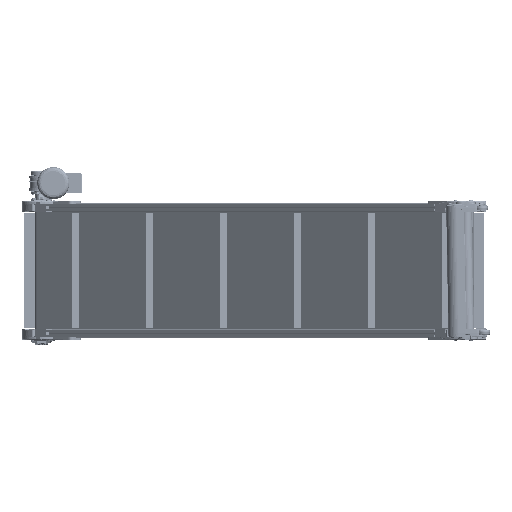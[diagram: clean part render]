
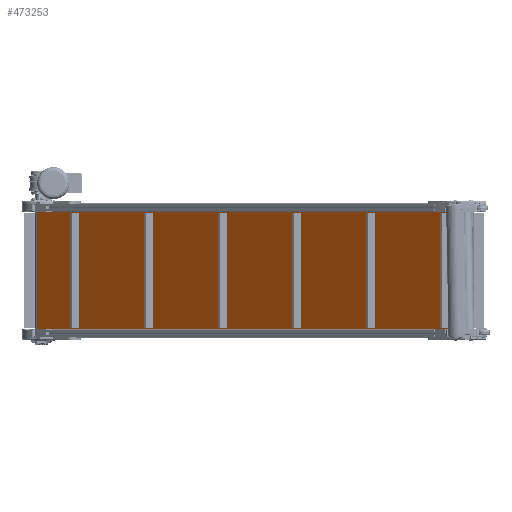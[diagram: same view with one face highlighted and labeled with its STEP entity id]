
A CAD part, left-side view. The second image highlights one B-rep face of the part: STEP entity #473253.
In plain terms, the highlighted planar face has unit normal (-0.707, 0.707, 0).
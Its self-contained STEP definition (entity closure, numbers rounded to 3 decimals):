
#8882 = DIRECTION ( 'NONE',  ( 0.707, 0.707, 0. ) ) ;
#31340 = DIRECTION ( 'NONE',  ( 0., 0., -1. ) ) ;
#31390 = EDGE_CURVE ( 'NONE', #98490, #453713, #185246, .T. ) ;
#58197 = ORIENTED_EDGE ( 'NONE', *, *, #441524, .T. ) ;
#86498 = LINE ( 'NONE', #205075, #491378 ) ;
#89408 = VECTOR ( 'NONE', #270373, 1000. ) ;
#98490 = VERTEX_POINT ( 'NONE', #140577 ) ;
#118914 = CARTESIAN_POINT ( 'NONE',  ( 344.139, 33.151, -246.5 ) ) ;
#131064 = ORIENTED_EDGE ( 'NONE', *, *, #235143, .F. ) ;
#131877 = DIRECTION ( 'NONE',  ( -0.707, -0.707, 0. ) ) ;
#140577 = CARTESIAN_POINT ( 'NONE',  ( 344.139, 33.151, 246.5 ) ) ;
#163929 = EDGE_LOOP ( 'NONE', ( #58197, #240280, #131064, #376237 ) ) ;
#185246 = LINE ( 'NONE', #377158, #316613 ) ;
#196582 = CARTESIAN_POINT ( 'NONE',  ( 1955.84, 1644.852, 246.5 ) ) ;
#205075 = CARTESIAN_POINT ( 'NONE',  ( 1906.342, 1595.354, 246.5 ) ) ;
#235143 = EDGE_CURVE ( 'NONE', #270860, #98490, #86498, .T. ) ;
#236901 = LINE ( 'NONE', #196582, #244319 ) ;
#240280 = ORIENTED_EDGE ( 'NONE', *, *, #31390, .F. ) ;
#241309 = EDGE_CURVE ( 'NONE', #270860, #378613, #236901, .T. ) ;
#244319 = VECTOR ( 'NONE', #350564, 1000. ) ;
#259229 = CARTESIAN_POINT ( 'NONE',  ( 1955.84, 1644.852, 246.5 ) ) ;
#270373 = DIRECTION ( 'NONE',  ( -0.707, -0.707, 0. ) ) ;
#270860 = VERTEX_POINT ( 'NONE', #259229 ) ;
#271379 = CARTESIAN_POINT ( 'NONE',  ( 344.139, 33.151, 246.5 ) ) ;
#276384 = PLANE ( 'NONE',  #477158 ) ;
#311821 = FACE_OUTER_BOUND ( 'NONE', #163929, .T. ) ;
#316613 = VECTOR ( 'NONE', #31340, 1000. ) ;
#350564 = DIRECTION ( 'NONE',  ( 0., 0., -1. ) ) ;
#376237 = ORIENTED_EDGE ( 'NONE', *, *, #241309, .T. ) ;
#377158 = CARTESIAN_POINT ( 'NONE',  ( 344.139, 33.151, 246.5 ) ) ;
#378613 = VERTEX_POINT ( 'NONE', #420637 ) ;
#386652 = CARTESIAN_POINT ( 'NONE',  ( 344.139, 33.151, -246.5 ) ) ;
#420637 = CARTESIAN_POINT ( 'NONE',  ( 1955.84, 1644.852, -246.5 ) ) ;
#425528 = DIRECTION ( 'NONE',  ( 0.707, -0.707, 0. ) ) ;
#441524 = EDGE_CURVE ( 'NONE', #378613, #453713, #462353, .T. ) ;
#453713 = VERTEX_POINT ( 'NONE', #118914 ) ;
#462353 = LINE ( 'NONE', #386652, #89408 ) ;
#473253 = ADVANCED_FACE ( 'NONE', ( #311821 ), #276384, .F. ) ;
#477158 = AXIS2_PLACEMENT_3D ( 'NONE', #271379, #425528, #8882 ) ;
#491378 = VECTOR ( 'NONE', #131877, 1000. ) ;
